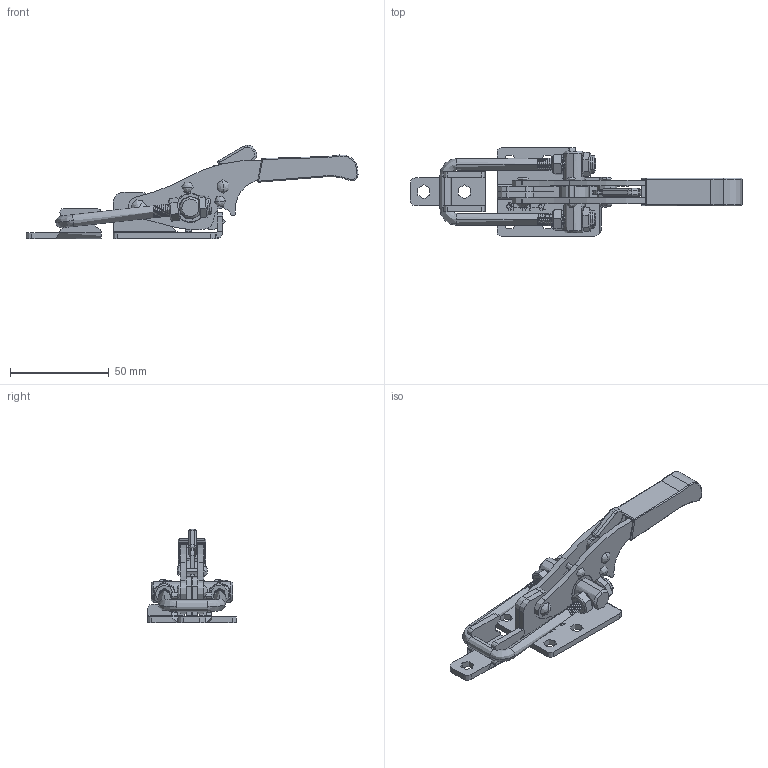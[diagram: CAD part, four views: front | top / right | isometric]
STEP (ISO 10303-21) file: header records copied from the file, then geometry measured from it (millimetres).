
FILE_DESCRIPTION (( 'STEP AP203' ), '1' );
FILE_NAME ('CH-431-CZ.STEP', '2024-02-26T06:07:45', ( 'User' ), ( 'china' ), 'SwSTEP 2.0', 'SolidWorks 2018', '' );
FILE_SCHEMA (( 'CONFIG_CONTROL_DESIGN' ));
Length unit declared in the file: millimetre
Products named in the file (40): 菜輸; CH-431-CZ; 蝶; M6 LOCK NUT; 431-CZ-02酘菁釱; 36070菜え; 431-CZ-01衵菁釱; 眄杶; 4.7-12諾穩; CH-40334-04 PERMANENT SEAT; CH-431-CZ-09蛌粣; 3.9-12諾穩; 431-CZ-03忒梟; 431-CZ-06U像; 2.9-12諾穩; hex nuts, style 1-grades ab gb_GB_FASTENER_NUT_SNAB1 M6-N; 431-CZ-05悵玸忒梟; hex nuts, style 1-grades ab gb
Assembly tree (25 placements, depth 2):
  菜輸
  CH-431-CZ
    431-CZ-02酘菁釱
    431-CZ-01衵菁釱
    CH-40334-04 PERMANENT SEAT
    431-CZ-03忒梟  x2
    431-CZ-05悵玸忒梟
    菜輸  x2
    蝶
    36070菜え  x2
    眄杶
    CH-431-CZ-09蛌粣
    431-CZ-06U像
    hex nuts, style 1-grades ab gb_GB_FASTENER_NUT_SNAB1 M6-N  x2
    M6 LOCK NUT  x2
    4.7-12諾穩
    3.9-12諾穩
    2.9-12諾穩  x2
  蝶
  431-CZ-02酘菁釱
  36070菜え
Bounding box: 168.14 x 44.6 x 47.45 mm (x, y, z)
Volume: 37981.8 mm3; surface area: 36414.5 mm2
Topology: 22 solids, 22 shells, 907 faces, 2419 edges, 1548 vertices
Faces by surface type: cylinder 401, plane 316, bspline 80, cone 62, torus 42, sphere 6
Entity records: 42018 total; most frequent: CARTESIAN_POINT 19988, ORIENTED_EDGE 4080, DIRECTION 3529, EDGE_CURVE 2040, VERTEX_POINT 1313, AXIS2_PLACEMENT_3D 1232, LINE 1065, VECTOR 1065
